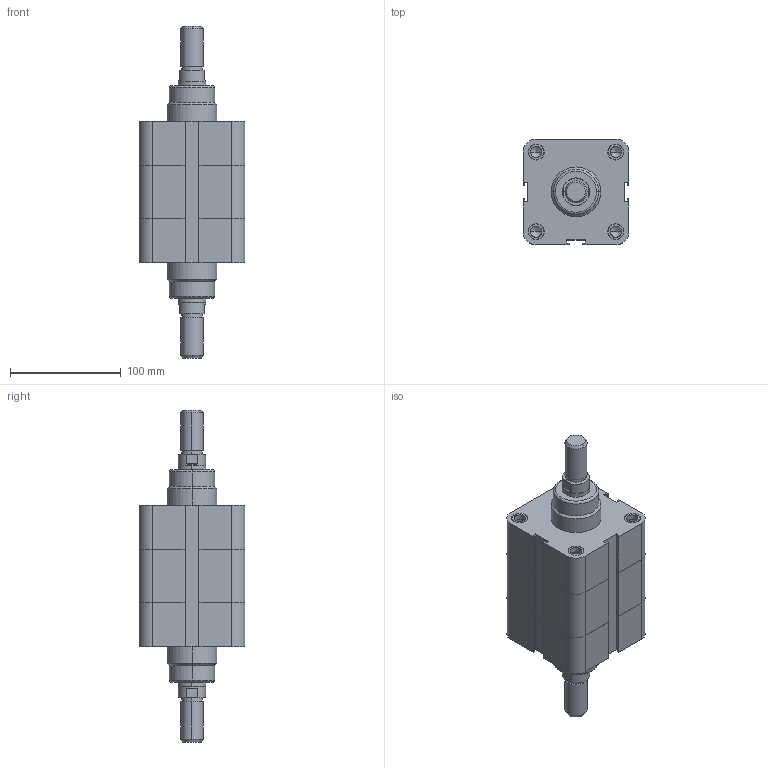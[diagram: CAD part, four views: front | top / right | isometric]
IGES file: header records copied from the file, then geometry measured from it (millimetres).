
Global section: file name: No Iges File Name specified; native system: AutoDesk Inventor R6.1; preprocessor: AutoDesk Inventor Iges Exporter R6.1; author: No Author specified; organization: No Organization specified; date: 20040107.171042; units: millimetre
Bounding box: 95.5 x 95.5 x 300 mm (x, y, z)
Volume: 1231974.8 mm3; surface area: 126899.7 mm2
Topology: 2 solids, 2 shells, 236 faces, 564 edges, 356 vertices
Faces by surface type: plane 80, bspline 62, cylinder 42, revolution 32, cone 16, torus 4
